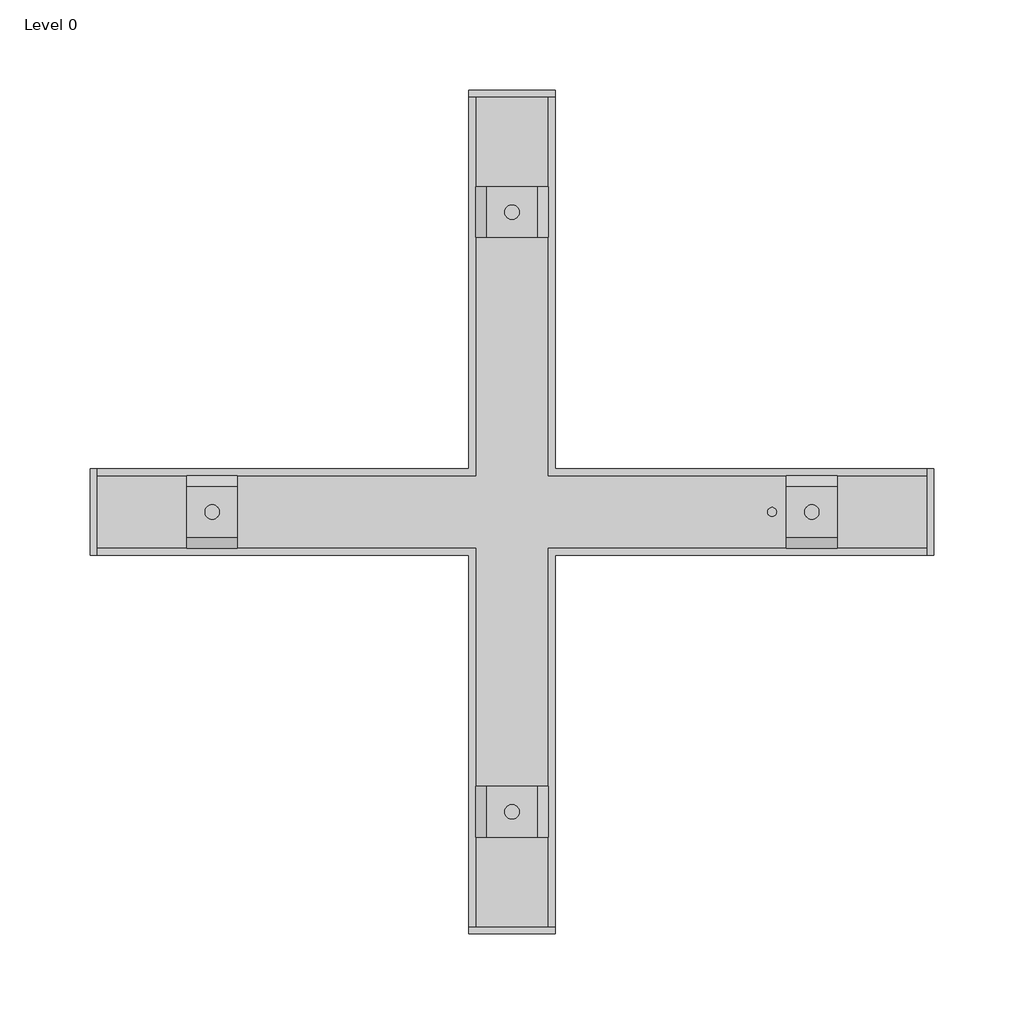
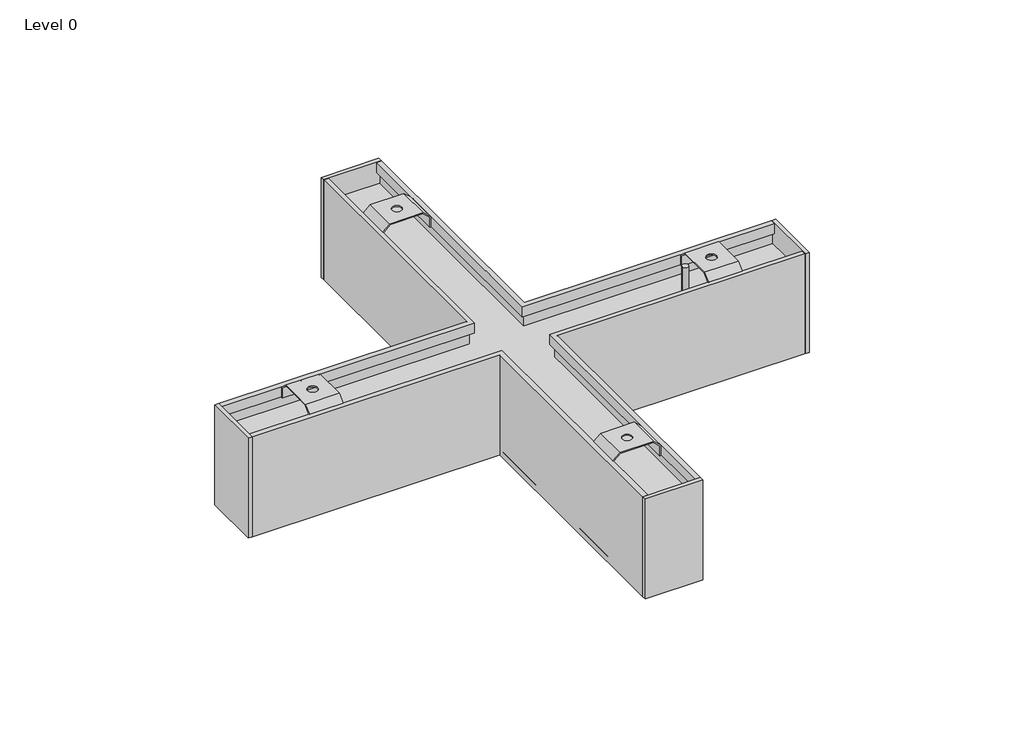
# One storey: 1 light fixture.
"""IFC4 building model written with IfcOpenShell, lengths in millimetres."""

from ifc_helpers import new_model, si_unit, origin, place, context, project, spatial, transform, mapped, element, save
from components import silver_anodized_3000_k_1370_lm_3ce2196c

model = new_model("IFC4")

# Units and contexts
model_context = context("Model", 3, world=origin())
ifc_project = project(units=[si_unit("LENGTHUNIT", "METRE", prefix="MILLI")], contexts=[model_context])

# Site, building, storey
site = spatial("IfcSite", under=ifc_project)
building = spatial("IfcBuilding", under=site)
storey = spatial("IfcBuildingStorey", under=building, Name="Level 0", Elevation=0.0)

# Light fixture
placement = place(None, origin())
silver_anodized_3000_k_1370_lm_shape = silver_anodized_3000_k_1370_lm_3ce2196c(model_context)
element("IfcLightFixture", 1, ObjectType="KLUŚ - SERPENT - NT X90 : Silver Anodized - 3000 K - 1370 lm", at=placement, inside=storey, context=model_context, shape_type="MappedRepresentation", body=[
    mapped(silver_anodized_3000_k_1370_lm_shape, transform((0.0, 0.0, 93.0), x_axis=(1.0, 0.0, 0.0), y_axis=(0.0, -1.0, 0.0), z_axis=(0.0, 0.0, -1.0))),
])

save(model, "model.ifc")
